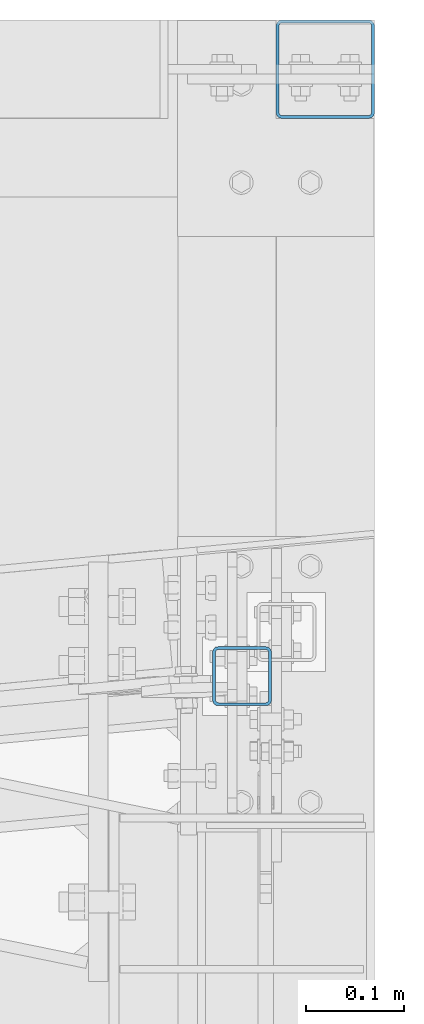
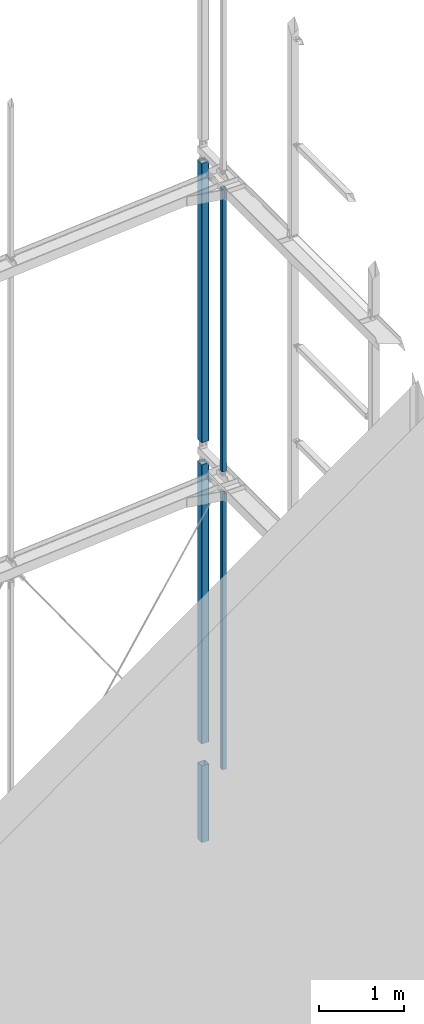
# One storey, part 57 of 271: 5 beams, 5 elements without a shape of their own.
"""IFC2X3 building model written with IfcOpenShell, lengths in millimetres."""

from ifc_helpers import new_model, si_unit, frame, origin_with_axes, origin_2d_with_axis, place, context, subcontext, project, spatial, hollow_rectangle, extrude, clip, halfspace, material, type_object, element, aggregate, save


model = new_model("IFC2X3")

# Units and contexts
model_context = context("Model", 3, precision=1e-05, world=origin_with_axes())
body_context = subcontext(model_context, "Body", "Model", "MODEL_VIEW")
ifc_project = project(units=[si_unit("LENGTHUNIT", "METRE", prefix="MILLI"), si_unit("AREAUNIT", "SQUARE_METRE"), si_unit("VOLUMEUNIT", "CUBIC_METRE"), si_unit("MASSUNIT", "GRAM", prefix="KILO"), si_unit("TIMEUNIT", "SECOND"), si_unit("PLANEANGLEUNIT", "RADIAN"), si_unit("SOLIDANGLEUNIT", "STERADIAN"), si_unit("THERMODYNAMICTEMPERATUREUNIT", "DEGREE_CELSIUS"), si_unit("LUMINOUSINTENSITYUNIT", "LUMEN")], contexts=[model_context])

# Site, building, storey
site_placement = place(None, origin_with_axes())
site = spatial("IfcSite", under=ifc_project, at=site_placement, Name="Undefined", CompositionType="ELEMENT")
building_placement = place(site_placement, origin_with_axes())
building = spatial("IfcBuilding", under=site, at=building_placement, Name="Undefined", CompositionType="ELEMENT")
storey_placement = place(building_placement, origin_with_axes())
storey = spatial("IfcBuildingStorey", under=building, at=storey_placement, Name="Undefined", CompositionType="ELEMENT", Elevation=0.0)

# Assembly, beam
assembly_1_placement = place(storey_placement, origin_with_axes())
assembly_1 = element("IfcElementAssembly", 1, at=assembly_1_placement, inside=storey, AssemblyPlace="NOTDEFINED", PredefinedType="RIGID_FRAME")
ifc_material = material(Name="STEEL/S355JR")
beam_type_1 = type_object("IfcBeamType", Name="SHS100*3", PredefinedType="NOTDEFINED")
beam_1_placement = place(assembly_1_placement, frame((12658.3756870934, 4909.32498425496, 1364.34999990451), z_axis=(0.0, 1.0, 0.0), x_axis=(0.0, 0.0, -1.0)))
beam_1 = element("IfcBeam", 2, at=beam_1_placement, type_object=beam_type_1, material=ifc_material, Name="RYGIEL ATTYKOWY", ObjectType="SHS100*3", context=body_context, shape_type="Clipping", body=[
    clip(clip(extrude(hollow_rectangle(XDim=100.0, YDim=100.0, WallThickness=3.0, InnerFilletRadius=3.0, OuterFilletRadius=6.0, at=origin_2d_with_axis()), frame((1360.0, 0.0, 0.0), z_axis=(-1.0, 0.0, 1.38777878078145e-17), x_axis=(0.0, -1.0, 0.0)), (0.0, 0.0, 1.0), 1360.0), halfspace(frame((1247.0, 0.0, -15.0), z_axis=(-1.0, 0.0, 1.38777878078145e-17), x_axis=(0.0, 1.0, 0.0)), True)), halfspace(frame((148.000000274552, 0.0, -15.0), z_axis=(1.0, 0.0, 0.0), x_axis=(0.0, -1.0, 0.0)), True)),
])
aggregate(assembly_1, [beam_1])

assembly_2_placement = place(storey_placement, origin_with_axes())
assembly_2 = element("IfcElementAssembly", 3, at=assembly_2_placement, inside=storey, AssemblyPlace="NOTDEFINED", PredefinedType="RIGID_FRAME")
beam_2_placement = place(assembly_2_placement, frame((12658.3756870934, 4909.32498425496, 5684.34999990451), z_axis=(0.0, 1.0, 0.0), x_axis=(0.0, 0.0, -1.0)))
beam_2 = element("IfcBeam", 4, at=beam_2_placement, type_object=beam_type_1, material=ifc_material, Name="RYGIEL ATTYKOWY", ObjectType="SHS100*3", context=body_context, shape_type="Clipping", body=[
    clip(clip(extrude(hollow_rectangle(XDim=100.0, YDim=100.0, WallThickness=3.0, InnerFilletRadius=3.0, OuterFilletRadius=6.0, at=origin_2d_with_axis()), frame((4320.0, 0.0, 9.09494701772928e-13), z_axis=(-1.0, 0.0, 1.38777878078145e-17), x_axis=(0.0, -1.0, 0.0)), (0.0, 0.0, 1.0), 4320.0), halfspace(frame((4152.0, 0.0, -15.0), z_axis=(-1.0, 0.0, 1.38777878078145e-17), x_axis=(0.0, 1.0, 0.0)), True)), halfspace(frame((148.000000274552, 0.0, -15.0), z_axis=(1.0, 0.0, 0.0), x_axis=(0.0, -1.0, 0.0)), True)),
])
aggregate(assembly_2, [beam_2])

assembly_3_placement = place(storey_placement, origin_with_axes())
assembly_3 = element("IfcElementAssembly", 5, at=assembly_3_placement, inside=storey, AssemblyPlace="NOTDEFINED", PredefinedType="RIGID_FRAME")
beam_3_placement = place(assembly_3_placement, frame((12658.3756870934, 4909.32498425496, 10004.3499999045), z_axis=(0.0, 1.0, 0.0), x_axis=(0.0, 0.0, -1.0)))
beam_3 = element("IfcBeam", 6, at=beam_3_placement, type_object=beam_type_1, material=ifc_material, Name="RYGIEL ATTYKOWY", ObjectType="SHS100*3", context=body_context, shape_type="Clipping", body=[
    clip(clip(extrude(hollow_rectangle(XDim=100.0, YDim=100.0, WallThickness=3.0, InnerFilletRadius=3.0, OuterFilletRadius=6.0, at=origin_2d_with_axis()), frame((4320.0, 0.0, 9.09494701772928e-13), z_axis=(-1.0, 0.0, 1.38777878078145e-17), x_axis=(0.0, -1.0, 0.0)), (0.0, 0.0, 1.0), 4320.0), halfspace(frame((4152.0, 0.0, -15.0), z_axis=(-1.0, 0.0, 1.38777878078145e-17), x_axis=(0.0, 1.0, 0.0)), True)), halfspace(frame((148.000000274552, 0.0, -15.0), z_axis=(1.0, 0.0, 0.0), x_axis=(0.0, -1.0, 0.0)), True)),
])
aggregate(assembly_3, [beam_3])

assembly_4_placement = place(storey_placement, origin_with_axes())
assembly_4 = element("IfcElementAssembly", 7, at=assembly_4_placement, inside=storey, AssemblyPlace="NOTDEFINED", PredefinedType="RIGID_FRAME")
beam_type_2 = type_object("IfcBeamType", Name="SHS60*3", PredefinedType="NOTDEFINED")
beam_4_placement = place(assembly_4_placement, frame((12573.751374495, 4292.19355050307, 5684.34999990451), z_axis=(0.0, 1.0, 0.0), x_axis=(0.0, 0.0, 1.0)))
beam_4 = element("IfcBeam", 8, at=beam_4_placement, type_object=beam_type_2, material=ifc_material, Name="TĘŻNIK", ObjectType="SHS60*3", context=body_context, shape_type="Clipping", body=[
    clip(clip(extrude(hollow_rectangle(XDim=60.0, YDim=60.0, WallThickness=3.0, InnerFilletRadius=3.0, OuterFilletRadius=6.0, at=origin_2d_with_axis()), frame((4320.0, 0.0, 9.09494701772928e-13), z_axis=(-1.0, 0.0, 1.38777878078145e-17), x_axis=(0.0, -1.0, 0.0)), (0.0, 0.0, 1.0), 4320.0), halfspace(frame((4188.7000000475, -15.0, 0.0), z_axis=(-1.0, 0.0, 1.38777878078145e-17), x_axis=(0.0, 0.0, -1.0)), True)), halfspace(frame((131.299999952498, -15.0, 0.0), z_axis=(1.0, 0.0, 0.0), x_axis=(0.0, 0.0, 1.0)), True)),
])
aggregate(assembly_4, [beam_4])

assembly_5_placement = place(storey_placement, origin_with_axes())
assembly_5 = element("IfcElementAssembly", 9, at=assembly_5_placement, inside=storey, AssemblyPlace="NOTDEFINED", PredefinedType="RIGID_FRAME")
beam_5_placement = place(assembly_5_placement, frame((12573.751374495, 4292.19355050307, 1364.34999990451), z_axis=(0.0, 1.0, 0.0), x_axis=(0.0, 0.0, 1.0)))
beam_5 = element("IfcBeam", 10, at=beam_5_placement, type_object=beam_type_2, material=ifc_material, Name="TĘŻNIK", ObjectType="SHS60*3", context=body_context, shape_type="Clipping", body=[
    clip(clip(extrude(hollow_rectangle(XDim=60.0, YDim=60.0, WallThickness=3.0, InnerFilletRadius=3.0, OuterFilletRadius=6.0, at=origin_2d_with_axis()), frame((4320.0, 0.0, 9.09494701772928e-13), z_axis=(-1.0, 0.0, 1.38777878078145e-17), x_axis=(0.0, -1.0, 0.0)), (0.0, 0.0, 1.0), 4320.0), halfspace(frame((4138.7000000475, -15.0, 0.0), z_axis=(-1.0, 0.0, 1.38777878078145e-17), x_axis=(0.0, 0.0, -1.0)), True)), halfspace(frame((181.2999999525, -15.0, 0.0), z_axis=(1.0, 0.0, 0.0), x_axis=(0.0, 0.0, 1.0)), True)),
])
aggregate(assembly_5, [beam_5])

save(model, "model.ifc")
